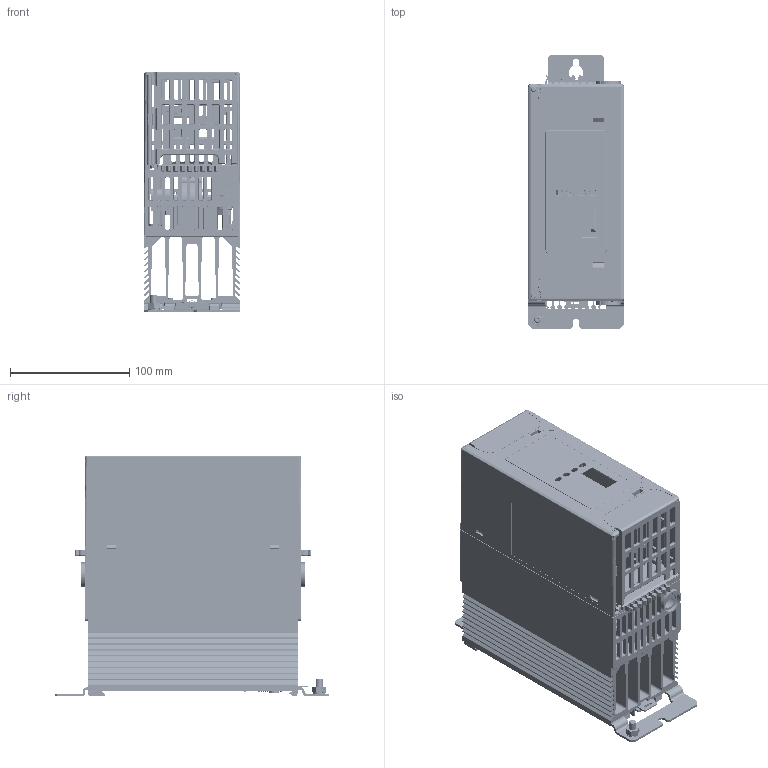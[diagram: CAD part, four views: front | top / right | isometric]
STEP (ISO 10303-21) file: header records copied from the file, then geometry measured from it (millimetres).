
FILE_DESCRIPTION((''),'2;1');
FILE_NAME('EPACK_80-125A_ASM','2015-10-30T',('lbonneta'),(''),'PRO/ENGINEER BY PARAMETRIC TECHNOLOGY CORPORATION, 2014320','PRO/ENGINEER BY PARAMETRIC TECHNOLOGY CORPORATION, 2014320','');
FILE_SCHEMA(('CONFIG_CONTROL_DESIGN'));
Products named in the file (57): BC032066_AF0; BS032066_ASM; BA032139; BA032140; FH-M6-15-ZI; BA032140_ASSY_ASM; BA032141; FC12374L; FB411L08; BA031234; FJ176434; FB301L08; CF032036; FX032180; FB301P20; BG032167; BD032126; BA032081; BG032168; CI032080; FC12304P; FX173852; FB007P20; FB411P10; FA12301P; BA032083; M4_SELF_CLINCH_NUT; BA032083_ASSY_ASM; BA032082; BD032004; BD032127; BD032131; GC032128; BD032130; 032008_PROFILE_ISSUE1_AF0; CY032034_AF0; CI032060; CI176075; CA001K10; CI176075_AF0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
Assembly tree (99 placements, depth 3):
  EPACK_80-125A_ASM
    BS032066_ASM
      BC032066_AF0
    BA032139
    BA032140_ASSY_ASM
      BA032140
      FH-M6-15-ZI
    BA032141
    FC12374L  x10
    FB411L08  x10
    BA031234
    FJ176434
    FB301L08  x2
    CF032036
    FX032180  x4
    FB301P20  x2
    BG032167  x2
    BD032126
    BA032081
    BG032168  x2
    CI032080  x2
    FC12304P  x4
    FX173852  x4
    FB007P20  x2
    FB411P10
    FA12301P  x3
    BA032083_ASSY_ASM
      BA032083
      M4_SELF_CLINCH_NUT  x2
    BA032082
    BD032004
    BD032127
    BD032131
    GC032128
    BD032130
    ADDITIONAL_032008_ISSUE1_ASM
      032008_PROFILE_ISSUE1_AF0
      CY032034_AF0
      CI032060  x4
      CI176075  x4
      CA001K10  x2
      CI176075_AF0
      CI031213_AF0
      CI176075_AF1
      CK510048_AF0
      CI176075_AF2
      CY1797214N7_AF0
      CY1797214N7_AF1
      CI177140_AF0
      CI176075_AF3
      CI031213_AF1
      CA21110M_AF0
      CI031226_AF0
      CI177140_AF1
      CI173560_AF0
      CA01027R_AF0
      DQ031581_AF0
Bounding box: 80 x 229.25 x 202.1 mm (x, y, z)
Volume: 742311.4 mm3; surface area: 507452.9 mm2
Topology: 78 solids, 79 shells, 9658 faces, 25921 edges, 16560 vertices
Faces by surface type: plane 5512, cylinder 2227, bspline 543, cone 489, torus 488, extrusion 355, sphere 44
Entity records: 307714 total; most frequent: CARTESIAN_POINT 94391, ORIENTED_EDGE 46166, DIRECTION 40709, EDGE_CURVE 23085, VECTOR 16783, LINE 16434, VERTEX_POINT 14799, AXIS2_PLACEMENT_3D 11963
